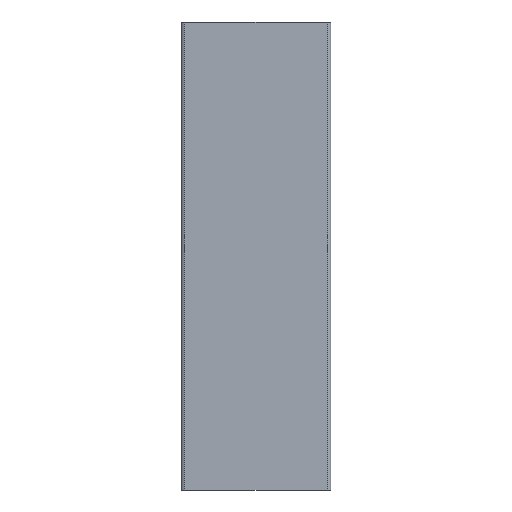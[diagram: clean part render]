
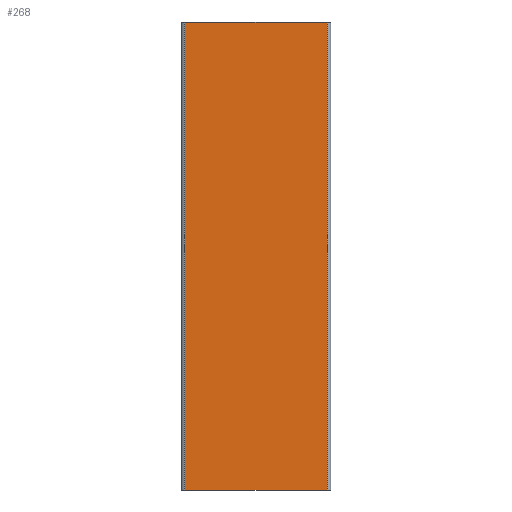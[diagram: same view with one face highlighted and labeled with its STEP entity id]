
A CAD part, front view. The second image highlights one B-rep face of the part: STEP entity #268.
In plain terms, the highlighted planar face has unit normal (0, -1, 0).
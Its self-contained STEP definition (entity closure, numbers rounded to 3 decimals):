
#40=FACE_OUTER_BOUND('',#55,.T.);
#55=EDGE_LOOP('',(#227,#228,#229,#230));
#78=LINE('',#440,#106);
#83=LINE('',#455,#111);
#84=LINE('',#459,#112);
#85=LINE('',#461,#113);
#106=VECTOR('',#359,10.);
#111=VECTOR('',#376,10.);
#112=VECTOR('',#381,10.);
#113=VECTOR('',#384,10.);
#132=VERTEX_POINT('',#437);
#133=VERTEX_POINT('',#439);
#137=VERTEX_POINT('',#453);
#138=VERTEX_POINT('',#457);
#162=EDGE_CURVE('',#133,#132,#78,.T.);
#170=EDGE_CURVE('',#137,#132,#83,.T.);
#172=EDGE_CURVE('',#133,#138,#84,.T.);
#173=EDGE_CURVE('',#138,#137,#85,.T.);
#227=ORIENTED_EDGE('',*,*,#170,.F.);
#228=ORIENTED_EDGE('',*,*,#173,.F.);
#229=ORIENTED_EDGE('',*,*,#172,.F.);
#230=ORIENTED_EDGE('',*,*,#162,.T.);
#254=PLANE('',#313);
#268=ADVANCED_FACE('',(#40),#254,.T.);
#313=AXIS2_PLACEMENT_3D('',#460,#382,#383);
#359=DIRECTION('',(1.,0.,0.));
#376=DIRECTION('',(0.,0.,-1.));
#381=DIRECTION('',(0.,0.,1.));
#382=DIRECTION('center_axis',(0.,-1.,0.));
#383=DIRECTION('ref_axis',(1.,0.,0.));
#384=DIRECTION('',(1.,0.,0.));
#437=CARTESIAN_POINT('',(38.,-20.,0.));
#439=CARTESIAN_POINT('',(-38.,-20.,0.));
#440=CARTESIAN_POINT('',(-40.,-20.,0.));
#453=CARTESIAN_POINT('',(38.,-20.,250.));
#455=CARTESIAN_POINT('',(38.,-20.,0.));
#457=CARTESIAN_POINT('',(-38.,-20.,250.));
#459=CARTESIAN_POINT('',(-38.,-20.,0.));
#460=CARTESIAN_POINT('Origin',(-40.,-20.,0.));
#461=CARTESIAN_POINT('',(-40.,-20.,250.));
